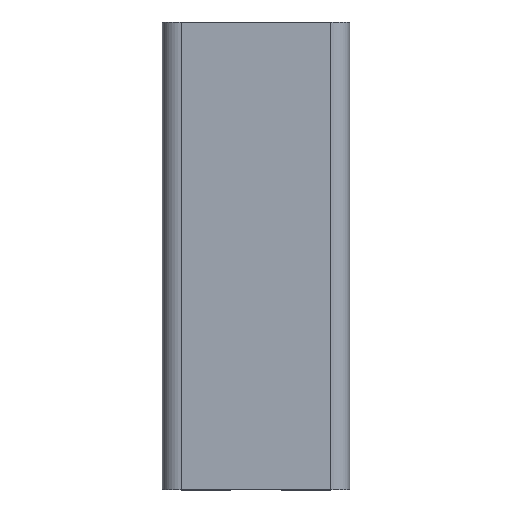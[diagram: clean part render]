
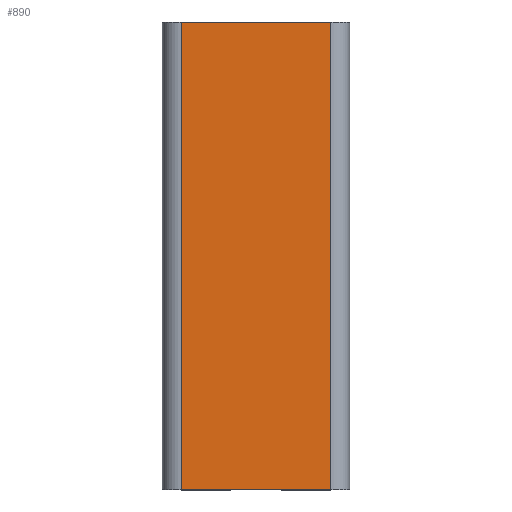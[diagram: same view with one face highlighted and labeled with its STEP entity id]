
A CAD part, top view. The second image highlights one B-rep face of the part: STEP entity #890.
In plain terms, the highlighted planar face has unit normal (0, 0, 1).
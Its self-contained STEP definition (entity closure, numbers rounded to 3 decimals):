
#30 = DIRECTION ( 'NONE',  ( 0., -1., 0. ) ) ;
#166 = FACE_OUTER_BOUND ( 'NONE', #1072, .T. ) ;
#181 = CARTESIAN_POINT ( 'NONE',  ( 16., -50., 0. ) ) ;
#218 = CARTESIAN_POINT ( 'NONE',  ( -16., -50., 0. ) ) ;
#222 = EDGE_CURVE ( 'NONE', #354, #326, #534, .T. ) ;
#236 = LINE ( 'NONE', #791, #872 ) ;
#237 = DIRECTION ( 'NONE',  ( -1., 0., 0. ) ) ;
#248 = CARTESIAN_POINT ( 'NONE',  ( 16., 50., 0. ) ) ;
#313 = DIRECTION ( 'NONE',  ( 0., -1., 0. ) ) ;
#315 = CARTESIAN_POINT ( 'NONE',  ( -16., -50., 0. ) ) ;
#321 = DIRECTION ( 'NONE',  ( 0., 0., -1. ) ) ;
#326 = VERTEX_POINT ( 'NONE', #315 ) ;
#354 = VERTEX_POINT ( 'NONE', #795 ) ;
#381 = EDGE_CURVE ( 'NONE', #967, #596, #236, .T. ) ;
#396 = CARTESIAN_POINT ( 'NONE',  ( -16., 50., 0. ) ) ;
#398 = VECTOR ( 'NONE', #907, 1000. ) ;
#436 = VECTOR ( 'NONE', #30, 1000. ) ;
#451 = LINE ( 'NONE', #218, #614 ) ;
#477 = LINE ( 'NONE', #992, #398 ) ;
#534 = LINE ( 'NONE', #767, #436 ) ;
#596 = VERTEX_POINT ( 'NONE', #181 ) ;
#608 = ORIENTED_EDGE ( 'NONE', *, *, #222, .T. ) ;
#614 = VECTOR ( 'NONE', #643, 1000. ) ;
#631 = AXIS2_PLACEMENT_3D ( 'NONE', #396, #321, #237 ) ;
#640 = ORIENTED_EDGE ( 'NONE', *, *, #803, .T. ) ;
#643 = DIRECTION ( 'NONE',  ( 1., 0., 0. ) ) ;
#696 = ORIENTED_EDGE ( 'NONE', *, *, #381, .F. ) ;
#767 = CARTESIAN_POINT ( 'NONE',  ( -16., 50., 0. ) ) ;
#791 = CARTESIAN_POINT ( 'NONE',  ( 16., 50., 0. ) ) ;
#795 = CARTESIAN_POINT ( 'NONE',  ( -16., 50., 0. ) ) ;
#803 = EDGE_CURVE ( 'NONE', #326, #596, #451, .T. ) ;
#820 = PLANE ( 'NONE',  #631 ) ;
#835 = ORIENTED_EDGE ( 'NONE', *, *, #958, .F. ) ;
#872 = VECTOR ( 'NONE', #313, 1000. ) ;
#890 = ADVANCED_FACE ( 'NONE', ( #166 ), #820, .F. ) ;
#907 = DIRECTION ( 'NONE',  ( 1., 0., 0. ) ) ;
#958 = EDGE_CURVE ( 'NONE', #354, #967, #477, .T. ) ;
#967 = VERTEX_POINT ( 'NONE', #248 ) ;
#992 = CARTESIAN_POINT ( 'NONE',  ( -16., 50., 0. ) ) ;
#1072 = EDGE_LOOP ( 'NONE', ( #640, #696, #835, #608 ) ) ;
